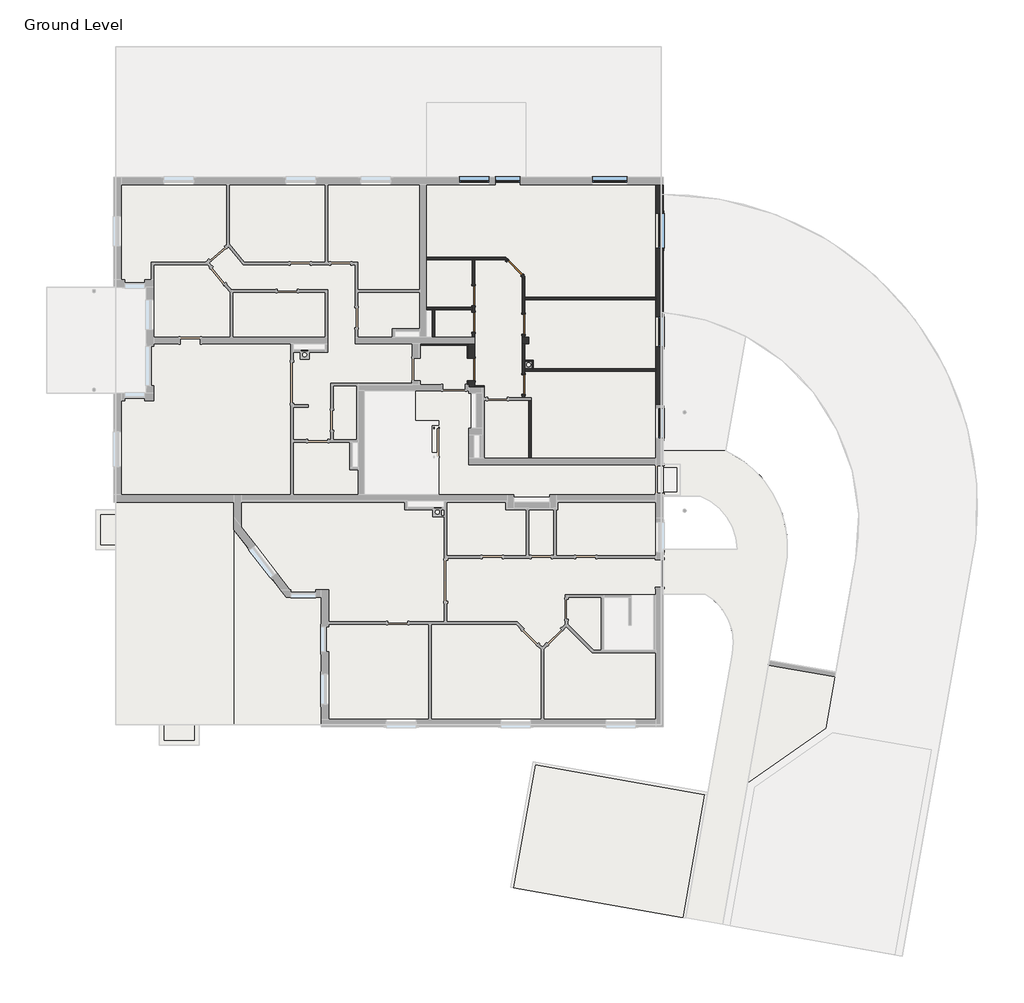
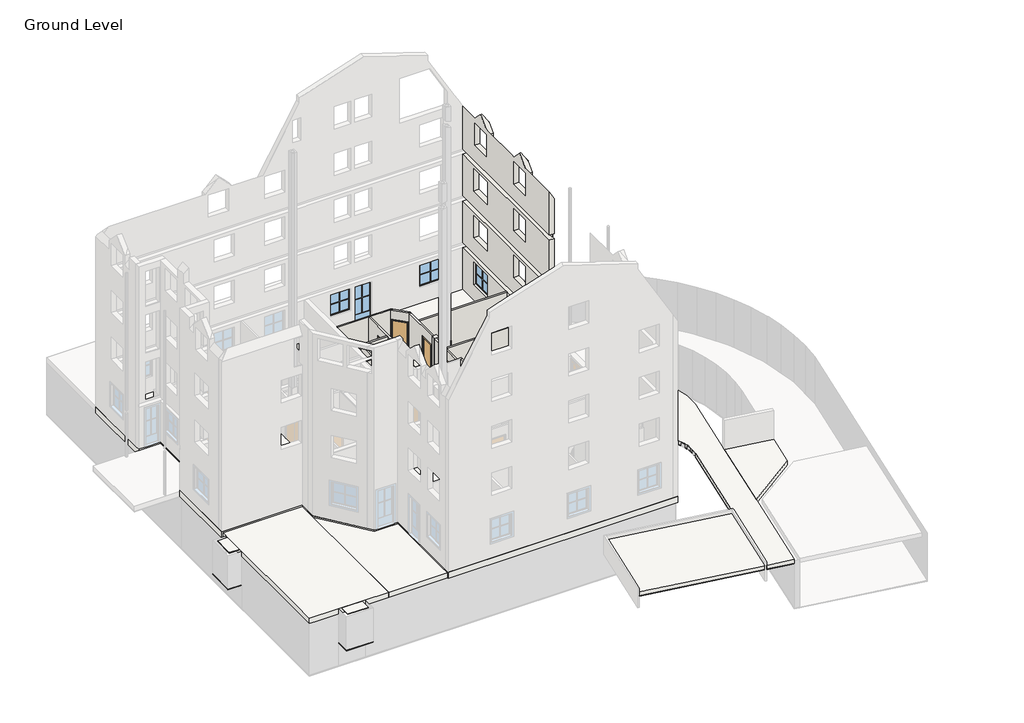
# One storey, part 5 of 6: 18 walls, 12 slabs, 6 doors, 6 windows.
"""IFC4 building model written with IfcOpenShell, lengths in millimetres."""

from ifc_helpers import new_model, si_unit, point, frame, frame_2d, origin, origin_with_axes, place, context, project, spatial, polyline, circle_curve, trimmed, segment, composite_curve, outline, extrude, faceted_brep, transform, mapped, element, save
from components import standard_door_sd_800x2000_80f4ff25, standard_door_sd_900x2000_a6683946, standard_window_with_mullions_d3525f46, standard_window_with_mullions_80486b60, window_2_53780d15

model = new_model("IFC4")

# Units and contexts
model_context = context("Model", 3, world=origin())
ifc_project = project(units=[si_unit("LENGTHUNIT", "METRE", prefix="MILLI")], contexts=[model_context])

# Site, building, storey
site = spatial("IfcSite", under=ifc_project)
building = spatial("IfcBuilding", under=site)
storey = spatial("IfcBuildingStorey", under=building, Name="Ground Level", Elevation=0.0)

# Doors
placement = place(None, origin())
standard_door_sd_800x2000_shape = standard_door_sd_800x2000_80f4ff25(model_context)
element("IfcDoor", 1, ObjectType="Standard Door : SD 800x2000", at=placement, inside=storey, context=model_context, shape_type="MappedRepresentation", body=[
    mapped(standard_door_sd_800x2000_shape, transform((3762.8037835, 2576.2076972, 0.0), x_axis=(0.0, -1.0, 0.0), y_axis=(1.0, 0.0, 0.0), z_axis=(0.0, 0.0, 1.0))),
])
element("IfcDoor", 2, ObjectType="Standard Door : SD 800x2000", at=placement, inside=storey, context=model_context, shape_type="MappedRepresentation", body=[
    mapped(standard_door_sd_800x2000_shape, transform((3762.8037835, 4988.8717038, 0.0), x_axis=(0.0, -1.0, 0.0), y_axis=(1.0, 0.0, 0.0), z_axis=(0.0, 0.0, 1.0))),
])
element("IfcDoor", 3, ObjectType="Standard Door : SD 800x2000", at=placement, inside=storey, context=model_context, shape_type="MappedRepresentation", body=[
    mapped(standard_door_sd_800x2000_shape, transform((3410.8458954, 7240.2976203, 0.0), x_axis=(0.7071067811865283, -0.7071067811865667, 0.0), y_axis=(0.7071067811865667, 0.7071067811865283, 0.0), z_axis=(0.0, 0.0, 1.0))),
])
element("IfcDoor", 4, ObjectType="Standard Door : SD 800x2000", at=placement, inside=storey, context=model_context, shape_type="MappedRepresentation", body=[
    mapped(standard_door_sd_800x2000_shape, transform((1762.8037835, 5063.1824611, 0.0), x_axis=(0.0, -1.0, 0.0), y_axis=(1.0, 0.0, 0.0), z_axis=(0.0, 0.0, 1.0))),
])
element("IfcDoor", 5, ObjectType="Standard Door : SD 800x2000", at=placement, inside=storey, context=model_context, shape_type="MappedRepresentation", body=[
    mapped(standard_door_sd_800x2000_shape, transform((1762.8037835, 6127.9240135, 0.0), x_axis=(0.0, -1.0, 0.0), y_axis=(1.0, 0.0, 0.0), z_axis=(0.0, 0.0, 1.0))),
])
standard_door_sd_900x2000_shape = standard_door_sd_900x2000_a6683946(model_context)
element("IfcDoor", 6, ObjectType="Standard Door : SD 900x2000", at=placement, inside=storey, context=model_context, shape_type="MappedRepresentation", body=[
    mapped(standard_door_sd_900x2000_shape, transform((1687.8037835, 3171.1987133, 0.0), x_axis=(0.0, 1.0, 0.0), y_axis=(-1.0, 0.0, 0.0), z_axis=(0.0, 0.0, 1.0))),
])

# Slabs
element("IfcSlab", 7, ObjectType="Asphalt Terrace", at=placement, inside=storey, context=model_context, shape_type="SweptSolid", body=[
    extrude(outline(polyline([(16227.9984371, -9131.2065199), (15866.1376178, -11183.4212053), (12738.306605, -13373.5520588), (13559.6689502, -8638.216614), (16227.9984371, -9131.2065199)])), frame((0.0, 0.0, -270.0), z_axis=(0.0, 0.0, 1.0), x_axis=(1.0, 0.0, 0.0)), (0.0, 0.0, 1.0), 240.0),
])
element("IfcSlab", 8, ObjectType="Asphalt Terrace", at=placement, inside=storey, context=model_context, shape_type="SweptSolid", body=[
    extrude(outline(polyline([(4222.6216392, -12641.6973909), (11017.7184639, -13839.8570811), (10149.4770917, -18763.8953703), (3354.380267, -17565.7356801), (4222.6216392, -12641.6973909)])), frame((0.0, 0.0, -270.0), z_axis=(0.0, 0.0, 1.0), x_axis=(1.0, 0.0, 0.0)), (0.0, 0.0, 1.0), 240.0),
])
element("IfcSlab", 9, ObjectType="Rollierung", at=placement, inside=storey, context=model_context, shape_type="SweptSolid", body=[
    extrude(outline(polyline([(-9223.5911601, -11872.3709459), (-10823.5911601, -11872.3709459), (-10823.5911601, -11052.3709459), (-9223.5911601, -11052.3709459), (-9223.5911601, -11872.3709459)])), frame((0.0, 0.0, -2260.0), z_axis=(0.0, 0.0, 1.0), x_axis=(1.0, 0.0, 0.0)), (0.0, 0.0, 1.0), 40.0),
])
element("IfcSlab", 10, ObjectType="Rollierung", at=placement, inside=storey, context=model_context, shape_type="SweptSolid", body=[
    extrude(outline(polyline([(-12557.1911601, -2432.3709459), (-12557.1911601, -4032.3709459), (-13363.5911601, -4032.3709459), (-13363.5911601, -2432.3709459), (-12557.1911601, -2432.3709459)])), frame((0.0, 0.0, -2260.0), z_axis=(0.0, 0.0, 1.0), x_axis=(1.0, 0.0, 0.0)), (0.0, 0.0, 1.0), 40.0),
])
element("IfcSlab", 11, ObjectType="Rollierung", at=placement, inside=storey, context=model_context, shape_type="SweptSolid", body=[
    extrude(outline(composite_curve([segment(polyline([(14317.3577769, -4341.1497463), (13590.5523257, -8463.068288), (12738.306605, -13373.5520589), (11738.8510901, -19041.7459501), (10248.0344041, -18781.2736836), (12113.1585693, -8203.6289143)]), True, "CONTINUOUS"), segment(trimmed(circle_curve(frame_2d((9933.4041595, -7751.3383061)), 2226.1841976), [point((12113.1585693, -8203.6289143))], [point((11031.0911178, -5814.5937635))], True, "CARTESIAN"), True, "CONTINUOUS"), segment(polyline([(11031.0911178, -5814.5937635), (9362.8037835, -5814.5937635), (9362.8037835, -4014.5937635), (12309.6434247, -4014.5937635)]), True, "CONTINUOUS"), segment(trimmed(circle_curve(frame_2d((10005.2079734, -4047.5225166)), 2304.6707036), [point((12309.6434247, -4014.5937635))], [point((10834.5744311, -1897.2531542))], True, "CARTESIAN"), True, "CONTINUOUS"), segment(polyline([(10834.5744311, -1897.2531542), (9362.8037835, -1897.2531542), (9362.8037835, -1852.3709459), (10036.4088399, -1852.3709459), (10036.4088399, -612.3709455), (9362.8037835, -612.370948), (9362.8037835, 5449.8942464)]), True, "CONTINUOUS"), segment(trimmed(circle_curve(frame_2d((8700.9450523, -2993.1355038)), 8468.9319481), [point((9362.8037835, 5449.8942464))], [point((12659.3738206, 4493.7630549))], False, "CARTESIAN"), True, "CONTINUOUS"), segment(polyline([(12659.3738206, 4493.7630549), (11854.5146636, -70.8200492)]), True, "CONTINUOUS"), segment(trimmed(circle_curve(frame_2d((10067.8637635, -3946.6090398)), 4267.7701132), [point((11854.5146636, -70.8200492))], [point((14317.3577769, -4341.1497463))], False, "CARTESIAN"), True, "CONTINUOUS")], self_intersect=False)), frame((0.0, 0.0, -310.0), z_axis=(0.0, 0.0, 1.0), x_axis=(1.0, 0.0, 0.0)), (0.0, 0.0, 1.0), 40.0),
])
element("IfcSlab", 12, ObjectType="Rollierung", at=placement, inside=storey, context=model_context, shape_type="SweptSolid", body=[
    extrude(outline(polyline([(4222.621572, -12641.697772), (11017.7185291, -13839.856702), (10149.5536288, -18763.9088659), (3354.380267, -17565.7356801), (4222.621572, -12641.697772)])), frame((0.0, 0.0, -310.0), z_axis=(0.0, 0.0, 1.0), x_axis=(1.0, 0.0, 0.0)), (0.0, 0.0, 1.0), 40.0),
])
element("IfcSlab", 13, ObjectType="STB240 + 160", at=placement, inside=storey, context=model_context, shape_type="Brep", body=[
    faceted_brep([(9362.8037835, 10867.6290541, -400.0), (9362.8037835, 10390.1602407, -400.0), (9362.8037835, 9901.8345531, -400.0), (9362.8037835, -11132.3709459, -400.0), (-4337.1962165, -11132.3709459, -400.0), (-4337.1962165, -11052.3709459, -400.0), (-4337.1962165, -5932.3709459, -400.0), (-5737.1962165, -5932.3709459, -400.0), (-7837.1962165, -3232.3709459, -400.0), (-7837.1962165, -2132.3709459, -400.0), (-12637.1962165, -2132.3709459, -400.0), (-12637.1962165, 2217.6290541, -400.0), (-12557.1911601, 2217.6290541, -400.0), (-12257.1911601, 2217.6290541, -400.0), (-11337.1962165, 2217.6290541, -400.0), (-11337.1962165, 6467.6290541, -400.0), (-12257.1911601, 6467.6290541, -400.0), (-12557.1911601, 6467.6290541, -400.0), (-12637.1962165, 6467.6290541, -400.0), (-12637.1962165, 10867.6290541, -400.0), (-582.1962165, 1117.6290541, -400.0), (-582.1962165, 2317.6290541, -400.0), (-2607.1962165, 2317.6290541, -400.0), (-2607.1962165, -1832.3709459, -400.0), (362.8037835, -1832.3709459, -400.0), (362.8037835, -162.3709459, -400.0), (192.8037835, -162.3709459, -400.0), (87.8037835, -162.3709459, -400.0), (87.8037835, 947.6290541, -400.0), (192.8037835, 947.6290541, -400.0), (362.8037835, 947.6290541, -400.0), (362.8037835, 1117.6290541, -400.0), (-2857.1962165, 267.6290541, -400.0), (-3107.1962165, 267.6290541, -400.0), (-3107.1962165, -732.3709459, -400.0), (-2857.1962165, -732.3709459, -400.0), (592.8037835, -2082.3709459, -400.0), (-886.4381272, -2082.3709459, -400.0), (-886.4381272, -2332.3709459, -400.0), (592.8037835, -2332.3709459, -400.0), (2012.8037835, 567.6290541, -400.0), (1762.8088399, 567.6290541, -400.0), (1762.8088399, -382.3709459, -400.0), (2012.8037835, -382.3709459, -400.0), (112.8037835, 5567.6290541, -400.0), (-137.1962165, 5567.6290541, -400.0), (-137.1962165, 4467.6290541, -400.0), (112.8037835, 4467.6290541, -400.0), (-1387.1962165, 4467.6290541, -400.0), (-387.1962165, 4467.6290541, -400.0), (-387.1962165, 4717.6290541, -400.0), (-1387.1962165, 4717.6290541, -400.0), (-4187.1962165, 3967.6290541, -400.0), (-4187.1962165, 4217.6290541, -400.0), (-5457.1962165, 4217.6290541, -400.0), (-5457.1962165, 3967.6290541, -400.0), (4812.8037835, -1932.3709459, -400.0), (3362.8037835, -1932.3709459, -400.0), (3362.8037835, -2132.3709459, -400.0), (4812.8037835, -2132.3709459, -400.0), (1662.8088399, 2217.6290541, -400.0), (1662.8088399, 817.6290541, -400.0), (1762.8088399, 817.6290541, -400.0), (1862.8037835, 817.6290541, -400.0), (1862.8037835, 2217.6290541, -400.0), (1762.8088399, 2217.6290541, -400.0), (6976.4088399, -5832.3709459, -400.0), (6976.4088399, -8052.3709459, -400.0), (8982.8088399, -8052.3709459, -400.0), (8982.8088399, -5832.3709459, -400.0), (9362.8037835, -11132.3709459, 0.0), (9362.8037835, 10567.6290541, 0.0), (9362.8037835, 10867.6290541, 0.0), (3637.8037835, 10867.6290541, 0.0), (2637.8037835, 10867.6290541, 0.0), (-12337.1962165, 10867.6290541, 0.0), (-12637.1962165, 10867.6290541, 0.0), (-12637.1962165, 6467.6290541, 0.0), (-11337.1962165, 6467.6290541, 0.0), (-11337.1962165, 2217.6290541, 0.0), (-12637.1962165, 2217.6290541, 0.0), (-12637.1962165, -2132.3709459, 0.0), (-7837.1962165, -2132.3709459, 0.0), (-7837.1962165, -3232.3709459, 0.0), (-5737.1962165, -5932.3709459, 0.0), (-4337.1962165, -5932.3709459, 0.0), (-4337.1962165, -7132.3709422, 0.0), (-4337.1962165, -8132.3709422, 0.0), (-4337.1962165, -10832.3709459, 0.0), (-4337.1962165, -11132.3709459, 0.0), (-582.1962165, 2317.6290541, 0.0), (-582.1962165, 1117.6290541, 0.0), (362.8037835, 1117.6290541, 0.0), (362.8037835, 947.6290541, 0.0), (192.8037835, 947.6290541, 0.0), (87.8037835, 947.6290541, 0.0), (87.8037835, -162.3709459, 0.0), (192.8037835, -162.3709459, 0.0), (362.8037835, -162.3709459, 0.0), (362.8037835, -299.8709459, 0.0), (362.8037835, -1832.3709459, 0.0), (-2607.1962165, -1832.3709459, 0.0), (-2607.1962165, 2317.6290541, 0.0), (-3107.1962165, 267.6290541, 0.0), (-2857.1962165, 267.6290541, 0.0), (-2857.1962165, -732.3709459, 0.0), (-3107.1962165, -732.3709459, 0.0), (-886.4381272, -2082.3709459, 0.0), (592.8037835, -2082.3709459, 0.0), (592.8037835, -2332.3709459, 0.0), (-886.4381272, -2332.3709459, 0.0), (1762.8088399, 567.6290541, 0.0), (2012.8037835, 567.6290541, 0.0), (2012.8037835, -382.3709459, 0.0), (1762.8088399, -382.3709459, 0.0), (-137.1962165, 5567.6290541, 0.0), (112.8037835, 5567.6290541, 0.0), (112.8037835, 4467.6290541, 0.0), (-137.1962165, 4467.6290541, 0.0), (-387.1962165, 4467.6290541, 0.0), (-1387.1962165, 4467.6290541, 0.0), (-1387.1962165, 4717.6290541, 0.0), (-387.1962165, 4717.6290541, 0.0), (-4187.1962165, 4217.6290541, 0.0), (-4187.1962165, 3967.6290541, 0.0), (-5457.1962165, 3967.6290541, 0.0), (-5457.1962165, 4217.6290541, 0.0), (3362.8037835, -1932.3709459, 0.0), (4812.8037835, -1932.3709459, 0.0), (4812.8037835, -2132.3709459, 0.0), (3362.8037835, -2132.3709459, 0.0), (1662.8088399, 817.6290541, 0.0), (1662.8088399, 2217.6290541, 0.0), (1762.8088399, 2217.6290541, 0.0), (1862.8037835, 2217.6290541, 0.0), (1862.8037835, 817.6290541, 0.0), (1762.8088399, 817.6290541, 0.0), (6976.4088399, -8052.3709459, 0.0), (6976.4088399, -5832.3709459, 0.0), (8982.8088399, -5832.3709459, 0.0), (8982.8088399, -8052.3709459, 0.0), (-4337.1962165, -5932.3709459, -91.0), (-5737.1962165, -5932.3709459, -91.0), (-7837.1962165, -3232.3709459, -91.0), (-12637.1962165, 2217.6290541, -100.0), (-11337.1962165, 2217.6290541, -100.0), (-11337.1962165, 6467.6290541, -100.0), (-12637.1962165, 6467.6290541, -100.0)], [[[0, 1, 2, 3, 4, 5, 6, 7, 8, 9, 10, 11, 12, 13, 14, 15, 16, 17, 18, 19], [20, 21, 22, 23, 24, 25, 26, 27, 28, 29, 30, 31], [32, 33, 34, 35], [36, 37, 38, 39], [40, 41, 42, 43], [44, 45, 46, 47], [48, 49, 50, 51], [52, 53, 54, 55], [56, 57, 58, 59], [60, 61, 62, 63, 64, 65], [66, 67, 68, 69]], [[70, 71, 72, 73, 74, 75, 76, 77, 78, 79, 80, 81, 82, 83, 84, 85, 86, 87, 88, 89], [90, 91, 92, 93, 94, 95, 96, 97, 98, 99, 100, 101, 102], [103, 104, 105, 106], [107, 108, 109, 110], [111, 112, 113, 114], [115, 116, 117, 118], [119, 120, 121, 122], [123, 124, 125, 126], [127, 128, 129, 130], [131, 132, 133, 134, 135, 136], [137, 138, 139, 140]], [[3, 2, 1, 0, 72, 71, 70]], [[4, 3, 70, 89]], [[89, 88, 87, 86, 85, 141, 6, 5, 4]], [[7, 6, 141, 85, 84, 142]], [[8, 7, 142, 84, 83, 143]], [[9, 8, 143, 83, 82]], [[10, 9, 82, 81]], [[11, 10, 81, 80, 144]], [[14, 13, 12, 11, 144, 80, 79, 145]], [[15, 14, 145, 79, 78, 146]], [[18, 17, 16, 15, 146, 78, 77, 147]], [[19, 18, 147, 77, 76]], [[0, 19, 76, 75, 74, 73, 72]], [[21, 20, 91, 90]], [[22, 21, 90, 102]], [[23, 22, 102, 101]], [[24, 23, 101, 100]], [[25, 24, 100, 99, 98]], [[27, 26, 25, 98, 97, 96]], [[28, 27, 96, 95]], [[30, 29, 28, 95, 94, 93]], [[31, 30, 93, 92]], [[20, 31, 92, 91]], [[33, 32, 104, 103]], [[34, 33, 103, 106]], [[35, 34, 106, 105]], [[32, 35, 105, 104]], [[37, 36, 108, 107]], [[38, 37, 107, 110]], [[39, 38, 110, 109]], [[36, 39, 109, 108]], [[41, 40, 112, 111]], [[42, 41, 111, 114]], [[43, 42, 114, 113]], [[40, 43, 113, 112]], [[45, 44, 116, 115]], [[46, 45, 115, 118]], [[47, 46, 118, 117]], [[44, 47, 117, 116]], [[49, 48, 120, 119]], [[50, 49, 119, 122]], [[51, 50, 122, 121]], [[48, 51, 121, 120]], [[53, 52, 124, 123]], [[54, 53, 123, 126]], [[55, 54, 126, 125]], [[52, 55, 125, 124]], [[57, 56, 128, 127]], [[58, 57, 127, 130]], [[59, 58, 130, 129]], [[56, 59, 129, 128]], [[61, 60, 132, 131]], [[63, 62, 61, 131, 136, 135]], [[64, 63, 135, 134]], [[60, 65, 64, 134, 133, 132]], [[67, 66, 138, 137]], [[68, 67, 137, 140]], [[69, 68, 140, 139]], [[66, 69, 139, 138]]]),
])
element("IfcSlab", 14, ObjectType="STB240 + 60 Grass", at=placement, inside=storey, context=model_context, shape_type="Brep", body=[
    faceted_brep([(-7837.1962165, -2132.3709459, -400.0), (-7837.1962165, -3232.3709459, -400.0), (-7837.1962165, -11052.3709459, -400.0), (-12257.1911601, -11052.3709459, -400.0), (-12557.1911601, -11052.3709459, -400.0), (-12557.1911601, -2132.3709459, -400.0), (-7837.1962165, -2132.3709459, -91.0), (-12557.1911601, -2132.3709459, -91.0), (-12557.1911601, -11052.3709459, -91.0), (-7837.1962165, -11052.3709459, -91.0), (-7837.1962165, -3232.3709459, -91.0)], [[[0, 1, 2, 3, 4, 5]], [[6, 7, 8, 9, 10]], [[2, 1, 0, 6, 10, 9]], [[4, 3, 2, 9, 8]], [[5, 4, 8, 7]], [[0, 5, 7, 6]]]),
])
element("IfcSlab", 15, ObjectType="STB240 + 60 Terrace", at=placement, inside=storey, context=model_context, shape_type="SweptSolid", body=[
    extrude(outline(polyline([(-7837.1962165, -11052.3709459), (-7837.1962165, -3232.3709459), (-5737.1962165, -5932.3709459), (-4337.1962165, -5932.3709459), (-4337.1962165, -11052.3709459), (-7837.1962165, -11052.3709459)])), frame((0.0, 0.0, -400.0), z_axis=(0.0, 0.0, 1.0), x_axis=(1.0, 0.0, 0.0)), (0.0, 0.0, 1.0), 309.0),
])
element("IfcSlab", 16, ObjectType="Standards 400mm", at=placement, inside=storey, context=model_context, shape_type="SweptSolid", body=[
    extrude(outline(polyline([(-9423.5911601, -11672.3709459), (-10623.5911601, -11672.3709459), (-10623.5911601, -11052.3709459), (-9423.5911601, -11052.3709459), (-9423.5911601, -11672.3709459)])), frame((0.0, 0.0, -131.0), z_axis=(0.0, 0.0, 1.0), x_axis=(1.0, 0.0, 0.0)), (0.0, 0.0, 1.0), 40.0),
])
element("IfcSlab", 17, ObjectType="Standards 400mm", at=placement, inside=storey, context=model_context, shape_type="SweptSolid", body=[
    extrude(outline(polyline([(-12557.1911601, -2632.3709459), (-12557.1911601, -3832.3709459), (-13163.5911601, -3832.3709459), (-13163.5911601, -2632.3709459), (-12557.1911601, -2632.3709459)])), frame((0.0, 0.0, -131.0), z_axis=(0.0, 0.0, 1.0), x_axis=(1.0, 0.0, 0.0)), (0.0, 0.0, 1.0), 40.0),
])
element("IfcSlab", 18, ObjectType="Terrace", at=placement, inside=storey, context=model_context, shape_type="SweptSolid", body=[
    extrude(outline(composite_curve([segment(polyline([(10834.5744311, -1897.2531542), (9362.8037835, -1897.2531542), (9362.8037835, -1732.3709459), (9916.4088399, -1732.3709459), (9916.4088399, -732.3709459), (9362.8037835, -732.370948), (9362.8037835, -70.8200492), (11854.5146636, -70.8200492)]), True, "CONTINUOUS"), segment(trimmed(circle_curve(frame_2d((10067.8637635, -3946.6090398)), 4267.7701132), [point((11854.5146636, -70.8200492))], [point((14317.3577769, -4341.1497463))], False, "CARTESIAN"), True, "CONTINUOUS"), segment(polyline([(14317.3577769, -4341.1497463), (13590.5523257, -8463.068288), (13555.7944523, -8651.1968023), (12738.306605, -13373.5520589), (11738.8510901, -19041.7459501), (10248.0344041, -18781.2736836), (12113.1585693, -8203.6289143)]), True, "CONTINUOUS"), segment(trimmed(circle_curve(frame_2d((9933.4041595, -7751.3383061)), 2226.1841976), [point((12113.1585693, -8203.6289143))], [point((11031.0911178, -5814.5937635))], True, "CARTESIAN"), True, "CONTINUOUS"), segment(polyline([(11031.0911178, -5814.5937635), (9362.8037835, -5814.5937635), (9362.8037835, -4014.5937635), (12309.6434247, -4014.5937635)]), True, "CONTINUOUS"), segment(trimmed(circle_curve(frame_2d((10005.2079734, -4047.5225166)), 2304.6707036), [point((12309.6434247, -4014.5937635))], [point((10834.5744311, -1897.2531542))], True, "CARTESIAN"), True, "CONTINUOUS")], self_intersect=False)), frame((0.0, 0.0, -270.0), z_axis=(0.0, 0.0, 1.0), x_axis=(1.0, 0.0, 0.0)), (0.0, 0.0, 1.0), 240.0),
])

# Walls
element("IfcWall", 19, ObjectType="Exterior - 250+50mm", at=placement, inside=storey, context=model_context, shape_type="Brep", body=[
    faceted_brep([(9062.8037835, 1767.6290541, 0.0), (9062.8037835, 3116.2076978, 0.0), (9062.8037835, 3216.2076978, 0.0), (9062.8037835, 5967.6290541, 0.0), (9062.8037835, 6067.6290541, 0.0), (9062.8037835, 10567.6290541, 0.0), (9362.8037835, 10567.6290541, 0.0), (9362.8037835, 5760.8115585, 0.0), (9362.8037835, 5459.9248888, 0.0), (9362.8037835, 1767.6290541, 0.0), (9062.8037835, 1767.6290541, 2630.0), (9062.8037835, 3116.2076978, 2630.0), (9062.8037835, 3216.2076978, 2630.0), (9062.8037835, 5967.6290541, 2630.0), (9062.8037835, 6067.6290541, 2630.0), (9062.8037835, 10567.6290541, 2630.0), (9062.8037835, 5288.4530256, 1000.0), (9062.8037835, 5288.4530256, 2400.0), (9062.8037835, 4088.4530256, 2400.0), (9062.8037835, 4088.4530256, 1000.0), (9062.8037835, 9425.6927772, 1000.0), (9062.8037835, 9425.6927772, 2400.0), (9062.8037835, 8025.6927772, 2400.0), (9062.8037835, 8025.6927772, 1000.0), (9062.8037835, 9525.6927772, 11562.4355653), (9062.8037835, 10567.6290541, 11562.4355653), (9062.8037835, 10567.6290541, 8850.0), (9062.8037835, 6067.6290541, 8850.0), (9062.8037835, 5967.6290541, 8850.0), (9062.8037835, 3216.2076978, 8850.0), (9062.8037835, 3116.2076978, 8850.0), (9062.8037835, 1917.6290541, 8850.0), (9062.8037835, 1617.6290541, 8850.0), (9062.8037835, 1617.6290541, 11480.0), (9062.8037835, 1617.6290541, 11562.4355653), (9062.8037835, 3888.4530256, 11562.4355653), (9062.8037835, 4100.8885909, 11562.4355653), (9062.8037835, 4688.4530256, 12150.0), (9062.8037835, 4820.8885909, 12017.5644347), (9062.8037835, 5276.0174603, 11562.4355653), (9062.8037835, 5488.4530256, 11562.4355653), (9062.8037835, 7925.6927772, 11562.4355653), (9062.8037835, 8138.1283425, 11562.4355653), (9062.8037835, 8725.6927772, 12150.0), (9062.8037835, 8858.1283425, 12017.5644347), (9062.8037835, 9313.2572119, 11562.4355653), (9062.8037835, 5288.4530256, 9850.0), (9062.8037835, 5288.4530256, 11250.0), (9062.8037835, 4088.4530256, 11250.0), (9062.8037835, 4088.4530256, 9850.0), (9062.8037835, 9325.6927772, 9850.0), (9062.8037835, 9325.6927772, 11250.0), (9062.8037835, 8125.6927772, 11250.0), (9062.8037835, 8125.6927772, 9850.0), (9062.8037835, 10567.6290541, 2950.0), (9062.8037835, 6067.6290541, 2950.0), (9062.8037835, 5967.6290541, 2950.0), (9062.8037835, 3216.2076978, 2950.0), (9062.8037835, 3116.2076978, 2950.0), (9062.8037835, 1917.6290541, 2950.0), (9062.8037835, 1617.6290541, 2950.0), (9062.8037835, 1617.6290541, 5580.0), (9062.8037835, 1917.6290541, 5580.0), (9062.8037835, 3116.2076978, 5580.0), (9062.8037835, 3216.2076978, 5580.0), (9062.8037835, 5967.6290541, 5580.0), (9062.8037835, 6067.6290541, 5580.0), (9062.8037835, 10567.6290541, 5580.0), (9062.8037835, 5288.4530256, 3950.0), (9062.8037835, 5288.4530256, 5350.0), (9062.8037835, 4088.4530256, 5350.0), (9062.8037835, 4088.4530256, 3950.0), (9062.8037835, 9425.6927772, 3950.0), (9062.8037835, 9425.6927772, 5350.0), (9062.8037835, 8025.6927772, 5350.0), (9062.8037835, 8025.6927772, 3950.0), (9062.8037835, 10567.6290541, 5900.0), (9062.8037835, 6067.6290541, 5900.0), (9062.8037835, 5967.6290541, 5900.0), (9062.8037835, 3216.2076978, 5900.0), (9062.8037835, 3116.2076978, 5900.0), (9062.8037835, 1917.6290541, 5900.0), (9062.8037835, 1617.6290541, 5900.0), (9062.8037835, 1617.6290541, 8530.0), (9062.8037835, 1917.6290541, 8530.0), (9062.8037835, 3116.2076978, 8530.0), (9062.8037835, 3216.2076978, 8530.0), (9062.8037835, 5967.6290541, 8530.0), (9062.8037835, 6067.6290541, 8530.0), (9062.8037835, 10567.6290541, 8530.0), (9062.8037835, 5288.4530256, 6900.0), (9062.8037835, 5288.4530256, 8300.0), (9062.8037835, 4088.4530256, 8300.0), (9062.8037835, 4088.4530256, 6900.0), (9062.8037835, 9425.6927772, 6900.0), (9062.8037835, 9425.6927772, 8300.0), (9062.8037835, 8025.6927772, 8300.0), (9062.8037835, 8025.6927772, 6900.0), (9362.8037835, 10567.6290541, 11042.820323), (9362.8037835, 9525.6927772, 11042.820323), (9362.8037835, 9525.6927772, 11350.0), (9362.8037835, 9112.8724541, 11762.820323), (9362.8037835, 9112.8724541, 11800.0), (9362.8037835, 8338.5131002, 11800.0), (9362.8037835, 8338.5131002, 11762.820323), (9362.8037835, 7925.6927772, 11350.0), (9362.8037835, 7925.6927772, 11042.820323), (9362.8037835, 5488.4530256, 11042.820323), (9362.8037835, 5488.4530256, 11350.0), (9362.8037835, 5075.6327025, 11762.820323), (9362.8037835, 5075.6327025, 11800.0), (9362.8037835, 4301.2733486, 11800.0), (9362.8037835, 4301.2733486, 11762.820323), (9362.8037835, 3888.4530256, 11350.0), (9362.8037835, 3888.4530256, 11042.820323), (9362.8037835, 1617.6290541, 11042.820323), (9362.8037835, 1617.6290541, 8850.0), (9362.8037835, 1767.6290541, 8850.0), (9362.8037835, 1767.6290541, 8530.0), (9362.8037835, 1667.6290541, 8530.0), (9362.8037835, 1617.6290541, 8530.0), (9362.8037835, 1617.6290541, 5900.0), (9362.8037835, 1767.6290541, 5900.0), (9362.8037835, 1767.6290541, 5580.0), (9362.8037835, 1667.6290541, 5580.0), (9362.8037835, 1617.6290541, 5580.0), (9362.8037835, 1617.6290541, 2950.0), (9362.8037835, 1767.6290541, 2950.0), (9362.8037835, 1767.6290541, 2630.0), (9362.8037835, 5288.4530256, 11250.0), (9362.8037835, 5288.4530256, 9850.0), (9362.8037835, 4088.4530256, 9850.0), (9362.8037835, 4088.4530256, 11250.0), (9362.8037835, 9325.6927772, 11250.0), (9362.8037835, 9325.6927772, 9850.0), (9362.8037835, 8125.6927772, 9850.0), (9362.8037835, 8125.6927772, 11250.0), (9362.8037835, 5288.4530256, 8300.0), (9362.8037835, 5288.4530256, 6900.0), (9362.8037835, 4088.4530256, 6900.0), (9362.8037835, 4088.4530256, 8300.0), (9362.8037835, 9425.6927772, 8300.0), (9362.8037835, 9425.6927772, 6900.0), (9362.8037835, 8025.6927772, 6900.0), (9362.8037835, 8025.6927772, 8300.0), (9362.8037835, 5288.4530256, 5350.0), (9362.8037835, 5288.4530256, 3950.0), (9362.8037835, 4088.4530256, 3950.0), (9362.8037835, 4088.4530256, 5350.0), (9362.8037835, 9425.6927772, 5350.0), (9362.8037835, 9425.6927772, 3950.0), (9362.8037835, 8025.6927772, 3950.0), (9362.8037835, 8025.6927772, 5350.0), (9362.8037835, 5288.4530256, 2400.0), (9362.8037835, 5288.4530256, 1000.0), (9362.8037835, 4088.4530256, 1000.0), (9362.8037835, 4088.4530256, 2400.0), (9362.8037835, 9425.6927772, 2400.0), (9362.8037835, 9425.6927772, 1000.0), (9362.8037835, 8025.6927772, 1000.0), (9362.8037835, 8025.6927772, 2400.0), (9312.8037835, 10567.6290541, 2630.0), (9312.8037835, 10567.6290541, 2950.0), (9312.8037835, 10567.6290541, 5580.0), (9312.8037835, 10567.6290541, 5900.0), (9312.8037835, 10567.6290541, 8530.0), (9312.8037835, 10567.6290541, 8850.0), (9312.8037835, 1767.6290541, 2950.0), (9312.8037835, 1767.6290541, 2630.0), (9185.4535143, 7925.6927772, 11350.0), (9185.4535143, 5488.4530256, 11350.0), (9185.4535143, 3888.4530256, 11350.0), (9185.4535143, 9525.6927772, 11350.0), (9341.338087, 4338.4530256, 11800.0), (9341.338087, 5038.4530256, 11800.0), (9139.2654927, 4688.4530256, 11800.0), (9139.2654927, 4688.4530256, 12150.0), (9341.338087, 8375.6927772, 11800.0), (9341.338087, 9075.6927772, 11800.0), (9139.2654927, 8725.6927772, 11800.0), (9139.2654927, 8725.6927772, 12150.0), (9312.8037835, 1767.6290541, 5580.0), (9312.8037835, 1767.6290541, 5900.0), (9312.8037835, 1767.6290541, 8530.0), (9312.8037835, 1767.6290541, 8850.0)], [[[0, 1, 2, 3, 4, 5, 6, 7, 8, 9]], [[5, 4, 3, 2, 1, 0, 10, 11, 12, 13, 14, 15], [16, 17, 18, 19], [20, 21, 22, 23]], [[24, 25, 26, 27, 28, 29, 30, 31, 32, 33, 34, 35, 36, 37, 38, 39, 40, 41, 42, 43, 44, 45], [46, 47, 48, 49], [50, 51, 52, 53]], [[54, 55, 56, 57, 58, 59, 60, 61, 62, 63, 64, 65, 66, 67], [68, 69, 70, 71], [72, 73, 74, 75]], [[76, 77, 78, 79, 80, 81, 82, 83, 84, 85, 86, 87, 88, 89], [90, 91, 92, 93], [94, 95, 96, 97]], [[9, 8, 7, 6, 98, 99, 100, 101, 102, 103, 104, 105, 106, 107, 108, 109, 110, 111, 112, 113, 114, 115, 116, 117, 118, 119, 120, 121, 122, 123, 124, 125, 126, 127, 128], [129, 130, 131, 132], [133, 134, 135, 136], [137, 138, 139, 140], [141, 142, 143, 144], [145, 146, 147, 148], [149, 150, 151, 152], [153, 154, 155, 156], [157, 158, 159, 160]], [[25, 98, 6, 5, 15, 161, 162, 54, 67, 163, 164, 76, 89, 165, 166, 26]], [[0, 9, 128, 127, 167, 168, 10]], [[127, 126, 60, 59, 58, 57, 56, 55, 54, 162, 167]], [[60, 126, 125, 61]], [[115, 34, 33, 32, 116]], [[82, 121, 120, 83]], [[106, 105, 169]], [[108, 107, 170]], [[114, 113, 171]], [[100, 99, 172]], [[112, 111, 173]], [[173, 111, 110, 174, 175]], [[175, 174, 176]], [[104, 103, 177]], [[177, 103, 102, 178, 179]], [[179, 178, 180]], [[35, 34, 115, 114, 171, 36]], [[105, 104, 177, 180, 43, 42, 169]], [[101, 100, 172, 45, 44, 43, 180, 178]], [[113, 112, 173, 176, 37, 36, 171]], [[109, 108, 170, 39, 38, 37, 176, 174]], [[107, 106, 169, 42, 41, 40, 39, 170]], [[98, 25, 24, 45, 172, 99]], [[175, 176, 173]], [[110, 109, 174]], [[179, 180, 177]], [[102, 101, 178]], [[46, 130, 129, 47]], [[47, 129, 132, 48]], [[48, 132, 131, 49]], [[130, 46, 49, 131]], [[50, 134, 133, 51]], [[51, 133, 136, 52]], [[52, 136, 135, 53]], [[134, 50, 53, 135]], [[91, 90, 138, 137]], [[92, 91, 137, 140]], [[93, 92, 140, 139]], [[90, 93, 139, 138]], [[95, 94, 142, 141]], [[96, 95, 141, 144]], [[97, 96, 144, 143]], [[94, 97, 143, 142]], [[69, 68, 146, 145]], [[70, 69, 145, 148]], [[71, 70, 148, 147]], [[68, 71, 147, 146]], [[73, 72, 150, 149]], [[74, 73, 149, 152]], [[75, 74, 152, 151]], [[72, 75, 151, 150]], [[17, 16, 154, 153]], [[18, 17, 153, 156]], [[19, 18, 156, 155]], [[16, 19, 155, 154]], [[21, 20, 158, 157]], [[22, 21, 157, 160]], [[23, 22, 160, 159]], [[20, 23, 159, 158]], [[168, 161, 15, 14, 13, 12, 11, 10]], [[161, 168, 167, 162]], [[123, 181, 163, 67, 66, 65, 64, 63, 62, 61, 125, 124]], [[182, 122, 121, 82, 81, 80, 79, 78, 77, 76, 164]], [[181, 182, 164, 163]], [[181, 123, 122, 182]], [[118, 183, 165, 89, 88, 87, 86, 85, 84, 83, 120, 119]], [[184, 117, 116, 32, 31, 30, 29, 28, 27, 26, 166]], [[183, 184, 166, 165]], [[183, 118, 117, 184]]]),
])
element("IfcWall", 20, ObjectType="Interior - 100mm", at=placement, inside=storey, context=model_context, shape_type="SweptSolid", body=[
    extrude(outline(polyline([(3962.8037835, -382.3709459), (3962.8037835, 1936.2076978), (4062.8037835, 1936.2076978), (4062.8037835, -382.3709459), (3962.8037835, -382.3709459)])), origin_with_axes(), (0.0, 0.0, 1.0), 2630.0),
])
element("IfcWall", 21, ObjectType="Interior - 100mm", at=placement, inside=storey, context=model_context, shape_type="Brep", body=[
    faceted_brep([(3154.2251397, 7567.6290541, 0.0), (3012.8037835, 7567.6290541, 0.0), (1812.8037835, 7567.6290541, 0.0), (1712.8037835, 7567.6290541, 0.0), (-137.1962165, 7567.6290541, 0.0), (-137.1962165, 7667.6290541, 0.0), (3054.2251397, 7667.6290541, 0.0), (3154.2251397, 7567.6290541, 2630.0), (3012.8037835, 7567.6290541, 2630.0), (1812.8037835, 7567.6290541, 2630.0), (1712.8037835, 7567.6290541, 2630.0), (-137.1962165, 7567.6290541, 2630.0), (-137.1962165, 7667.6290541, 2630.0), (3054.2251397, 7667.6290541, 2630.0)], [[[0, 1, 2, 3, 4, 5, 6]], [[4, 3, 2, 1, 0, 7, 8, 9, 10, 11]], [[5, 12, 13, 6]], [[4, 11, 12, 5]], [[7, 0, 6, 13]], [[11, 10, 9, 8, 7, 13, 12]]]),
])
element("IfcWall", 22, ObjectType="Interior - 100mm", at=placement, inside=storey, context=model_context, shape_type="Brep", body=[
    faceted_brep([(3012.8037835, 7567.6290541, 0.0), (3154.2251397, 7567.6290541, 0.0), (3163.3585219, 7558.4956719, 0.0), (3092.6478438, 7487.7849937, 0.0), (3812.8037835, 6909.0504103, 0.0), (3812.8037835, 6767.6290541, 0.0), (3712.8037835, 6867.6290541, 0.0), (3658.3332688, 6922.0995688, 0.0), (3729.0439469, 6992.8102469, 0.0), (3012.8037835, 7567.6290541, 2630.0), (3092.6478438, 7487.7849937, 2000.0), (3658.3332688, 6922.0995688, 2000.0), (3812.8037835, 6767.6290541, 2630.0), (3712.8037835, 6867.6290541, 2630.0), (3154.2251397, 7567.6290541, 2630.0), (3812.8037835, 6909.0504103, 2630.0), (3729.0439469, 6992.8102469, 2000.0), (3163.3585219, 7558.4956719, 2000.0)], [[[0, 1, 2, 3]], [[4, 5, 6, 7, 8]], [[9, 0, 3, 10, 11, 7, 6, 5, 12, 13]], [[1, 14, 15, 4, 8, 16, 17, 2]], [[0, 9, 14, 1]], [[12, 5, 4, 15]], [[9, 13, 12, 15, 14]], [[11, 16, 8, 7]], [[16, 11, 10, 17]], [[17, 10, 3, 2]]]),
])
element("IfcWall", 23, ObjectType="Interior - 100mm", at=placement, inside=storey, context=model_context, shape_type="Brep", body=[
    faceted_brep([(3712.8037835, 4467.6290541, 0.0), (3712.8037835, 4588.8717038, 0.0), (3812.8037835, 4588.8717038, 0.0), (3812.8037835, 4467.6290541, 0.0), (3712.8037835, 5388.8717038, 0.0), (3712.8037835, 6867.6290541, 0.0), (3812.8037835, 6767.6290541, 0.0), (3812.8037835, 6067.6290541, 0.0), (3812.8037835, 5967.6290541, 0.0), (3812.8037835, 5388.8717038, 0.0), (3712.8037835, 4588.8717038, 2000.0), (3712.8037835, 4467.6290541, 2630.0), (3712.8037835, 6867.6290541, 2630.0), (3712.8037835, 5388.8717038, 2000.0), (3812.8037835, 4588.8717038, 2000.0), (3812.8037835, 5388.8717038, 2000.0), (3812.8037835, 6767.6290541, 2630.0), (3812.8037835, 6067.6290541, 2630.0), (3812.8037835, 5967.6290541, 2630.0), (3812.8037835, 4467.6290541, 2630.0)], [[[0, 1, 2, 3]], [[4, 5, 6, 7, 8, 9]], [[10, 1, 0, 11, 12, 5, 4, 13]], [[3, 2, 14, 15, 9, 8, 7, 6, 16, 17, 18, 19]], [[5, 12, 16, 6]], [[12, 11, 19, 18, 17, 16]], [[11, 0, 3, 19]], [[14, 2, 1, 10]], [[15, 14, 10, 13]], [[9, 15, 13, 4]]]),
])
element("IfcWall", 24, ObjectType="Interior - 100mm", at=placement, inside=storey, context=model_context, shape_type="SweptSolid", body=[
    extrude(outline(polyline([(9062.8037835, 5967.6290541), (3812.8037835, 5967.6290541), (3812.8037835, 6067.6290541), (9062.8037835, 6067.6290541), (9062.8037835, 5967.6290541)])), origin_with_axes(), (0.0, 0.0, 1.0), 2630.0),
])
element("IfcWall", 25, ObjectType="Interior - 100mm", at=placement, inside=storey, context=model_context, shape_type="Brep", body=[
    faceted_brep([(1712.8037835, 4467.6290541, 0.0), (1712.8037835, 4663.1824611, 0.0), (1812.8037835, 4663.1824611, 0.0), (1812.8037835, 4467.6290541, 0.0), (1712.8037835, 5463.1824611, 0.0), (1712.8037835, 5567.6290541, 0.0), (1712.8037835, 5667.6290541, 0.0), (1712.8037835, 5727.9240135, 0.0), (1812.8037835, 5727.9240135, 0.0), (1812.8037835, 5463.1824611, 0.0), (1712.8037835, 6527.9240135, 0.0), (1712.8037835, 7567.6290541, 0.0), (1812.8037835, 7567.6290541, 0.0), (1812.8037835, 6527.9240135, 0.0), (1712.8037835, 5727.9240135, 2000.0), (1712.8037835, 5463.1824611, 2000.0), (1712.8037835, 4663.1824611, 2000.0), (1712.8037835, 4467.6290541, 2630.0), (1712.8037835, 5567.6290541, 2630.0), (1712.8037835, 5667.6290541, 2630.0), (1712.8037835, 7567.6290541, 2630.0), (1712.8037835, 6527.9240135, 2000.0), (1812.8037835, 5727.9240135, 2000.0), (1812.8037835, 6527.9240135, 2000.0), (1812.8037835, 7567.6290541, 2630.0), (1812.8037835, 4467.6290541, 2630.0), (1812.8037835, 4663.1824611, 2000.0), (1812.8037835, 5463.1824611, 2000.0)], [[[0, 1, 2, 3]], [[4, 5, 6, 7, 8, 9]], [[10, 11, 12, 13]], [[14, 7, 6, 5, 4, 15, 16, 1, 0, 17, 18, 19, 20, 11, 10, 21]], [[9, 8, 22, 23, 13, 12, 24, 25, 3, 2, 26, 27]], [[11, 20, 24, 12]], [[17, 0, 3, 25]], [[20, 19, 18, 17, 25, 24]], [[26, 2, 1, 16]], [[27, 26, 16, 15]], [[9, 27, 15, 4]], [[22, 8, 7, 14]], [[23, 22, 14, 21]], [[13, 23, 21, 10]]]),
])
element("IfcWall", 26, ObjectType="Interior - 100mm", at=placement, inside=storey, context=model_context, shape_type="Brep", body=[
    faceted_brep([(1712.8037835, 5667.6290541, 0.0), (-137.1962165, 5667.6290541, 0.0), (-137.1962165, 5667.6290541, 2630.0), (1712.8037835, 5667.6290541, 2630.0), (1712.8037835, 5567.6290541, 0.0), (1712.8037835, 5567.6290541, 2630.0), (212.8037835, 5567.6290541, 2630.0), (112.8037835, 5567.6290541, 2630.0), (-137.1962165, 5567.6290541, 2630.0), (-137.1962165, 5567.6290541, 0.0), (112.8037835, 5567.6290541, 0.0), (212.8037835, 5567.6290541, 0.0)], [[[0, 1, 2, 3]], [[4, 5, 6, 7, 8, 9, 10, 11]], [[1, 0, 4, 11, 10, 9]], [[2, 1, 9, 8]], [[0, 3, 5, 4]], [[3, 2, 8, 7, 6, 5]]]),
])
element("IfcWall", 27, ObjectType="Interior - 100mm", at=placement, inside=storey, context=model_context, shape_type="SweptSolid", body=[
    extrude(outline(polyline([(112.8037835, 4467.6290541), (112.8037835, 5567.6290541), (212.8037835, 5567.6290541), (212.8037835, 4467.6290541), (112.8037835, 4467.6290541)])), origin_with_axes(), (0.0, 0.0, 1.0), 2630.0),
])
element("IfcWall", 28, ObjectType="Interior - 100mm", at=placement, inside=storey, context=model_context, shape_type="Brep", body=[
    faceted_brep([(9062.8037835, 3216.2076978, 0.0), (4142.8037835, 3216.2076978, 0.0), (4112.8037835, 3216.2076978, 0.0), (3812.8037835, 3216.2076978, 0.0), (3812.8037835, 3216.2076978, 2630.0), (9062.8037835, 3216.2076978, 2630.0), (9062.8037835, 3116.2076978, 0.0), (9062.8037835, 3116.2076978, 2630.0), (3812.8037835, 3116.2076978, 2630.0), (3812.8037835, 3116.2076978, 0.0)], [[[0, 1, 2, 3, 4, 5]], [[6, 7, 8, 9]], [[3, 2, 1, 0, 6, 9]], [[0, 5, 7, 6]], [[4, 3, 9, 8]], [[5, 4, 8, 7]]]),
])
element("IfcWall", 29, ObjectType="Interior - 100mm", at=placement, inside=storey, context=model_context, shape_type="Brep", body=[
    faceted_brep([(3712.8037835, 2036.2076978, 0.0), (3712.8037835, 2176.2076972, 0.0), (3812.8037835, 2176.2076972, 0.0), (3812.8037835, 2036.2076978, 0.0), (3712.8037835, 2976.2076972, 0.0), (3712.8037835, 4217.6290541, 0.0), (3812.8037835, 4217.6290541, 0.0), (3812.8037835, 3546.2076978, 0.0), (3812.8037835, 3516.2076978, 0.0), (3812.8037835, 3216.2076978, 0.0), (3812.8037835, 3116.2076978, 0.0), (3812.8037835, 2976.2076972, 0.0), (3712.8037835, 2176.2076972, 2000.0), (3712.8037835, 2036.2076978, 2630.0), (3712.8037835, 4217.6290541, 2630.0), (3712.8037835, 2976.2076972, 2000.0), (3812.8037835, 2176.2076972, 2000.0), (3812.8037835, 2976.2076972, 2000.0), (3812.8037835, 4217.6290541, 2630.0), (3812.8037835, 3216.2076978, 2630.0), (3812.8037835, 3116.2076978, 2630.0), (3812.8037835, 2036.2076978, 2630.0)], [[[0, 1, 2, 3]], [[4, 5, 6, 7, 8, 9, 10, 11]], [[12, 1, 0, 13, 14, 5, 4, 15]], [[3, 2, 16, 17, 11, 10, 9, 8, 7, 6, 18, 19, 20, 21]], [[13, 0, 3, 21]], [[5, 14, 18, 6]], [[14, 13, 21, 20, 19, 18]], [[16, 2, 1, 12]], [[17, 16, 12, 15]], [[11, 17, 15, 4]]]),
])
element("IfcWall", 30, ObjectType="Interior - 250mm", at=placement, inside=storey, context=model_context, shape_type="Brep", body=[
    faceted_brep([(3712.8037835, 4217.6290541, 0.0), (3812.8037835, 4217.6290541, 0.0), (3962.8037835, 4217.6290541, 0.0), (3962.8037835, 4217.6290541, 2630.0), (3812.8037835, 4217.6290541, 2630.0), (3712.8037835, 4217.6290541, 2630.0), (3712.8037835, 4467.6290541, 0.0), (3712.8037835, 4467.6290541, 2630.0), (3812.8037835, 4467.6290541, 2630.0), (3962.8037835, 4467.6290541, 2630.0), (3962.8037835, 4467.6290541, 0.0), (3812.8037835, 4467.6290541, 0.0)], [[[0, 1, 2, 3, 4, 5]], [[6, 7, 8, 9, 10, 11]], [[2, 1, 0, 6, 11, 10]], [[3, 2, 10, 9]], [[0, 5, 7, 6]], [[5, 4, 3, 9, 8, 7]]]),
])
element("IfcWall", 31, ObjectType="Interior - 250mm", at=placement, inside=storey, context=model_context, shape_type="Brep", body=[
    faceted_brep([(1812.8037835, 4217.6290541, 0.0), (1812.8037835, 3621.1987133, 0.0), (1562.8037835, 3621.1987133, 0.0), (1562.8037835, 4152.6290541, 0.0), (1562.8037835, 4217.6290541, 0.0), (1812.8037835, 2721.1987133, 0.0), (1812.8037835, 2522.6290541, 0.0), (1812.8037835, 2467.6290541, 0.0), (1562.8037835, 2467.6290541, 0.0), (1562.8037835, 2567.6290541, 0.0), (1562.8037835, 2721.1987133, 0.0), (1812.8037835, 3621.1987133, 2000.0), (1812.8037835, 4217.6290541, 2630.0), (1812.8037835, 2522.6290541, 2630.0), (1812.8037835, 2467.6290541, 2630.0), (1812.8037835, 2721.1987133, 2000.0), (1562.8037835, 3621.1987133, 2000.0), (1562.8037835, 2721.1987133, 2000.0), (1562.8037835, 2467.6290541, 2630.0), (1562.8037835, 2567.6290541, 2630.0), (1562.8037835, 4152.6290541, 2630.0), (1562.8037835, 4217.6290541, 2630.0)], [[[0, 1, 2, 3, 4]], [[5, 6, 7, 8, 9, 10]], [[11, 1, 0, 12, 13, 14, 7, 6, 5, 15]], [[4, 3, 2, 16, 17, 10, 9, 8, 18, 19, 20, 21]], [[7, 14, 18, 8]], [[12, 0, 4, 21]], [[14, 13, 12, 21, 20, 19, 18]], [[16, 2, 1, 11]], [[17, 16, 11, 15]], [[10, 17, 15, 5]]]),
])
element("IfcWall", 32, ObjectType="Interior - 300mm", at=placement, inside=storey, context=model_context, shape_type="Brep", body=[
    faceted_brep([(3812.8037835, 3516.2076978, 0.0), (4112.8037835, 3516.2076978, 0.0), (4142.8037835, 3516.2076978, 0.0), (4142.8037835, 3516.2076978, 2950.0), (4112.8037835, 3516.2076978, 2950.0), (3812.8037835, 3516.2076978, 2950.0), (3812.8037835, 3546.2076978, 0.0), (3812.8037835, 3546.2076978, 2950.0), (4142.8037835, 3546.2076978, 2950.0), (4142.8037835, 3546.2076978, 0.0)], [[[0, 1, 2, 3, 4, 5]], [[6, 7, 8, 9]], [[2, 1, 0, 6, 9]], [[5, 4, 3, 8, 7]], [[3, 2, 9, 8]], [[0, 5, 7, 6]]]),
])
element("IfcWall", 33, ObjectType="Interior - 300mm", at=placement, inside=storey, context=model_context, shape_type="SweptSolid", body=[
    extrude(outline(polyline([(4112.8037835, 3216.2076978), (4112.8037835, 3516.2076978), (4142.8037835, 3516.2076978), (4142.8037835, 3216.2076978), (4112.8037835, 3216.2076978)])), origin_with_axes(), (0.0, 0.0, 1.0), 2950.0),
])
element("IfcWall", 34, ObjectType="Interior - 65mm", at=placement, inside=storey, context=model_context, shape_type="Brep", body=[
    faceted_brep([(-372.1962165, 4152.6290541, 0.0), (1497.8037835, 4152.6290541, 0.0), (1562.8037835, 4152.6290541, 0.0), (1562.8037835, 4152.6290541, 2630.0), (1497.8037835, 4152.6290541, 2630.0), (-372.1962165, 4152.6290541, 2630.0), (-372.1962165, 4217.6290541, 0.0), (-372.1962165, 4217.6290541, 2630.0), (1562.8037835, 4217.6290541, 2630.0), (1562.8037835, 4217.6290541, 0.0)], [[[0, 1, 2, 3, 4, 5]], [[6, 7, 8, 9]], [[2, 1, 0, 6, 9]], [[3, 2, 9, 8]], [[0, 5, 7, 6]], [[5, 4, 3, 8, 7]]]),
])
element("IfcWall", 35, ObjectType="Interior - 65mm", at=placement, inside=storey, context=model_context, shape_type="SweptSolid", body=[
    extrude(outline(polyline([(4152.6290541, 0.0), (3621.1987133, 0.0), (3621.1987133, 2000.0), (2721.1987133, 2000.0), (2721.1987133, 0.0), (2567.6290541, 0.0), (2567.6290541, 2630.0), (4152.6290541, 2630.0), (4152.6290541, 0.0)])), frame((1497.8037835, 0.0, 0.0), z_axis=(1.0, 0.0, 0.0), x_axis=(0.0, 1.0, 0.0)), (0.0, 0.0, 1.0), 65.0),
])
element("IfcWall", 36, ObjectType="Interior - 65mm", at=placement, inside=storey, context=model_context, shape_type="Brep", body=[
    faceted_brep([(1812.8037835, 2457.6290541, 0.0), (2112.8037835, 2457.6290541, 0.0), (2177.8037835, 2457.6290541, 0.0), (2177.8037835, 2457.6290541, 2630.0), (2112.8037835, 2457.6290541, 2630.0), (1812.8037835, 2457.6290541, 2630.0), (1812.8037835, 2522.6290541, 0.0), (1812.8037835, 2522.6290541, 2630.0), (2177.8037835, 2522.6290541, 2630.0), (2177.8037835, 2522.6290541, 0.0), (1812.8037835, 2467.6290541, 0.0), (1812.8037835, 2467.6290541, 2630.0)], [[[0, 1, 2, 3, 4, 5]], [[6, 7, 8, 9]], [[2, 1, 0, 10, 6, 9]], [[3, 2, 9, 8]], [[0, 5, 11, 7, 6, 10]], [[5, 4, 3, 8, 7, 11]]]),
])

# Windows
standard_window_with_mullions_shape = standard_window_with_mullions_d3525f46(model_context)
element("IfcWindow", 37, ObjectType="Standard Window with mullions : 1400/1400", at=placement, inside=storey, context=model_context, shape_type="MappedRepresentation", body=[
    mapped(standard_window_with_mullions_shape, transform((7214.6462462, 10717.6290541, 0.0), x_axis=(1.0, 0.0, 0.0), y_axis=(0.0, 1.0, 0.0), z_axis=(0.0, 0.0, 1.0))),
])
element("IfcWindow", 38, ObjectType="Standard Window with mullions : 1400/1400", at=placement, inside=storey, context=model_context, shape_type="MappedRepresentation", body=[
    mapped(standard_window_with_mullions_shape, transform((9212.8037835, 8725.6927772, 0.0), x_axis=(0.0, -1.0, 0.0), y_axis=(1.0, 0.0, 0.0), z_axis=(0.0, 0.0, 1.0))),
])
standard_window_with_mullions_2_shape = standard_window_with_mullions_80486b60(model_context)
element("IfcWindow", 39, ObjectType="Standard Window with mullions : 1200/1400", at=placement, inside=storey, context=model_context, shape_type="MappedRepresentation", body=[
    mapped(standard_window_with_mullions_2_shape, transform((1787.8037835, 10717.6290541, 0.0), x_axis=(1.0, 0.0, 0.0), y_axis=(0.0, 1.0, 0.0), z_axis=(0.0, 0.0, 1.0))),
])
element("IfcWindow", 40, ObjectType="Standard Window with mullions : 1200/1400", at=placement, inside=storey, context=model_context, shape_type="MappedRepresentation", body=[
    mapped(standard_window_with_mullions_2_shape, transform((9212.8037835, 4688.4530256, 0.0), x_axis=(0.0, -1.0, 0.0), y_axis=(1.0, 0.0, 0.0), z_axis=(0.0, 0.0, 1.0))),
])
element("IfcWindow", 41, ObjectType="Standard Window with mullions : 1200/1400", at=placement, inside=storey, context=model_context, shape_type="MappedRepresentation", body=[
    mapped(standard_window_with_mullions_2_shape, transform((9212.8037835, 1017.6290519, 0.0), x_axis=(0.0, -1.0, 0.0), y_axis=(1.0, 0.0, 0.0), z_axis=(0.0, 0.0, 1.0))),
])
window_2_shape = window_2_53780d15(model_context)
element("IfcWindow", 42, ObjectType="Window 2 : 1000/2400", at=placement, inside=storey, context=model_context, shape_type="MappedRepresentation", body=[
    mapped(window_2_shape, transform((3137.8037835, 10717.6290541, 0.0), x_axis=(1.0, 0.0, 0.0), y_axis=(0.0, 1.0, 0.0), z_axis=(0.0, 0.0, 1.0))),
])

save(model, "model.ifc")
